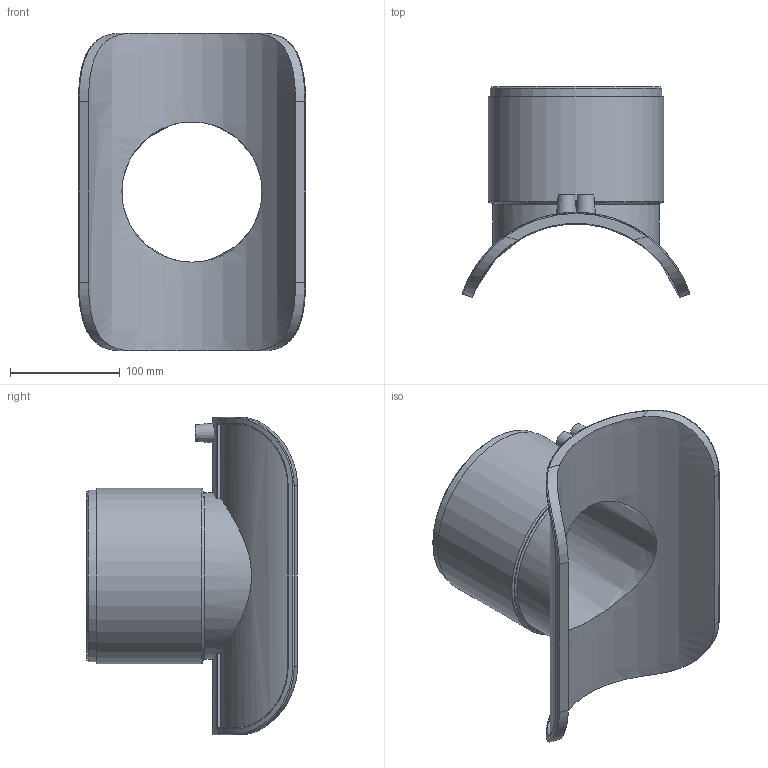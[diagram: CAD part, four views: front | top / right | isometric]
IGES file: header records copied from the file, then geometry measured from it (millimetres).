
Global section: file name: 4758S4200160.ipt; native system: Autodesk Inventor 2015; preprocessor: unknown; author: Кирилл,,11,0; organization: 20170830.202409; date: 20171106.093505; units: millimetre
Bounding box: 207.45 x 192.42 x 290 mm (x, y, z)
Volume: 1281027.2 mm3; surface area: 252993.8 mm2
Topology: 1 solids, 1 shells, 76 faces, 182 edges, 117 vertices
Faces by surface type: plane 24, revolution 21, cylinder 20, bspline 8, cone 3
Full cylindrical faces by diameter (mm): 4 x2, 152 x1, 156.8 x1, 160 x1
